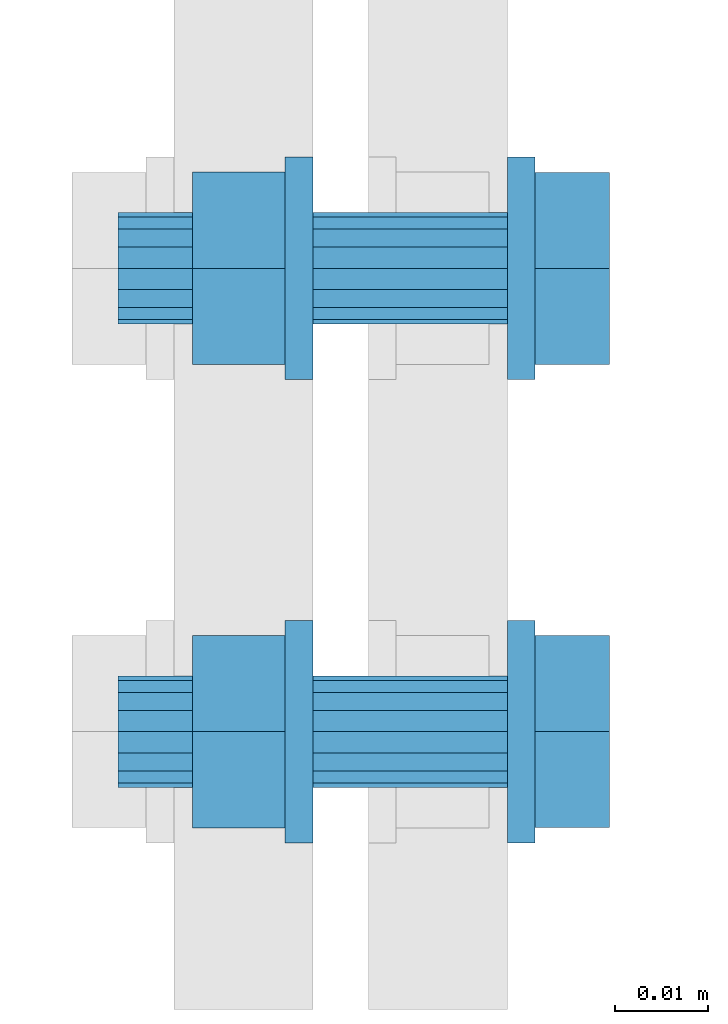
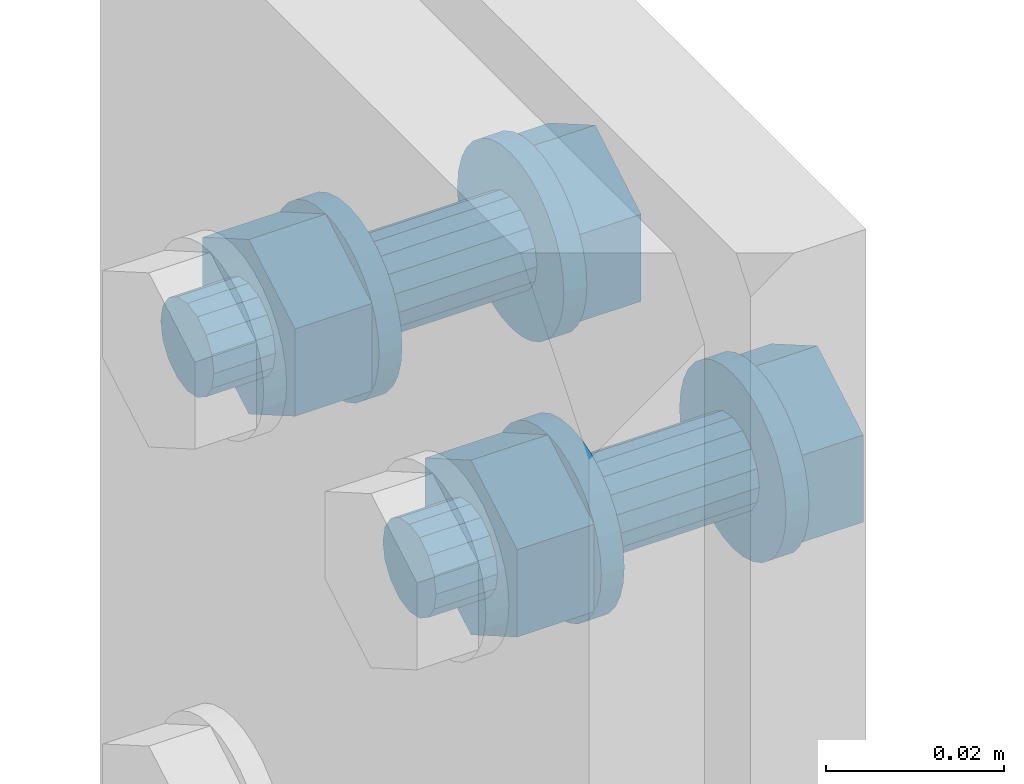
# One storey, part 10 of 13: 2 mechanical fasteners.
"""IFC4X3_ADD2 building model written with IfcOpenShell, lengths in millimetres."""

from ifc_helpers import new_model, entity, si_unit, converted_unit, derived_unit, direction, origin, place, context, project, spatial, faceted_brep, element, save


model = new_model("IFC4X3_ADD2")

# Units and contexts
model_context = context("Model", 3, precision=0.01, world=origin(), true_north=direction((6.123233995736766e-17, 1.0)))
plan_context = context("Plan", 3, precision=0.01, world=origin(), true_north=direction((6.123233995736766e-17, 1.0)))
ifc_project = project(units=[si_unit("LENGTHUNIT", "METRE", prefix="MILLI"), converted_unit("PLANEANGLEUNIT", "DEGREE", entity("IfcPlaneAngleMeasure", 0.017453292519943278), si_unit("PLANEANGLEUNIT", "RADIAN"), dimensions=[0, 0, 0, 0, 0, 0, 0]), si_unit("AREAUNIT", "SQUARE_METRE"), si_unit("VOLUMEUNIT", "CUBIC_METRE"), derived_unit("THERMALTRANSMITTANCEUNIT", [(si_unit("MASSUNIT", "GRAM", prefix="KILO"), 1), (si_unit("THERMODYNAMICTEMPERATUREUNIT", "KELVIN"), -1), (si_unit("TIMEUNIT", "SECOND"), -3)]), derived_unit("USERDEFINED", [(si_unit("MASSUNIT", "GRAM", prefix="KILO"), 1), (si_unit("THERMODYNAMICTEMPERATUREUNIT", "KELVIN"), -1), (si_unit("TIMEUNIT", "SECOND"), -2)]), derived_unit("THERMALRESISTANCEUNIT", [(si_unit("MASSUNIT", "GRAM", prefix="KILO"), -1), (si_unit("TIMEUNIT", "SECOND"), 3), (si_unit("THERMODYNAMICTEMPERATUREUNIT", "KELVIN"), 1)]), si_unit("MASSUNIT", "GRAM", prefix="KILO"), derived_unit("MOMENTOFINERTIAUNIT", [(si_unit("LENGTHUNIT", "METRE"), 4)]), derived_unit("LINEARFORCEUNIT", [(si_unit("MASSUNIT", "GRAM", prefix="KILO"), 1), (si_unit("TIMEUNIT", "SECOND"), -2)]), derived_unit("WARPINGCONSTANTUNIT", [(si_unit("LENGTHUNIT", "METRE"), 6)]), si_unit("PRESSUREUNIT", "PASCAL"), derived_unit("MASSDENSITYUNIT", [(si_unit("MASSUNIT", "GRAM", prefix="KILO"), 1), (si_unit("LENGTHUNIT", "METRE"), -3)]), derived_unit("MODULUSOFELASTICITYUNIT", [(si_unit("MASSUNIT", "GRAM", prefix="KILO"), 1), (si_unit("TIMEUNIT", "SECOND"), -2), (si_unit("LENGTHUNIT", "METRE"), -1)]), derived_unit("THERMALEXPANSIONCOEFFICIENTUNIT", [(si_unit("THERMODYNAMICTEMPERATUREUNIT", "KELVIN"), -1)]), derived_unit("VAPORPERMEABILITYUNIT", [(si_unit("LENGTHUNIT", "METRE"), -1), (si_unit("TIMEUNIT", "SECOND"), 1)]), derived_unit("USERDEFINED", [(si_unit("MASSUNIT", "GRAM", prefix="KILO"), 1), (si_unit("TIMEUNIT", "SECOND"), -3), (si_unit("LENGTHUNIT", "METRE"), 3), (si_unit("ELECTRICCURRENTUNIT", "AMPERE"), -2)]), derived_unit("SPECIFICHEATCAPACITYUNIT", [(si_unit("THERMODYNAMICTEMPERATUREUNIT", "KELVIN"), -1), (si_unit("TIMEUNIT", "SECOND"), -2), (si_unit("LENGTHUNIT", "METRE"), 2)]), derived_unit("THERMALCONDUCTANCEUNIT", [(si_unit("MASSUNIT", "GRAM", prefix="KILO"), 1), (si_unit("THERMODYNAMICTEMPERATUREUNIT", "KELVIN"), -1), (si_unit("TIMEUNIT", "SECOND"), -3), (si_unit("LENGTHUNIT", "METRE"), 1)])], contexts=[model_context, plan_context])

# Site, building, storey
site_placement = place(None, origin())
site = spatial("IfcSite", under=ifc_project, at=site_placement, Name="Default", CompositionType="ELEMENT")
building_placement = place(site_placement, origin())
building = spatial("IfcBuilding", under=site, at=building_placement, Name="Complex structure", CompositionType="ELEMENT")
storey_placement = place(building_placement, origin())
storey = spatial("IfcBuildingStorey", under=building, at=storey_placement, Name="Level 00", CompositionType="ELEMENT", Elevation=0.0)

# Mechanical fasteners
mechanical_fastener_1_placement = place(storey_placement, origin())
element("IfcMechanicalFastener", 1, at=mechanical_fastener_1_placement, inside=storey, ObjectType="Bolt#1", NominalDiameter=12.0, NominalLength=45.0, context=model_context, shape_type="Brep", body=[
    faceted_brep([(-5124.221550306, -1269.866703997, 2965.0), (-5127.221550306, -1269.866703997, 2965.0), (-5127.221550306, -1269.636127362, 2962.658916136), (-5124.221550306, -1269.636127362, 2962.658916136), (-5127.221550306, -1268.953258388, 2960.407798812), (-5124.221550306, -1268.953258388, 2960.407798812), (-5127.221550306, -1267.844339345, 2958.333157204), (-5124.221550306, -1267.844339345, 2958.333157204), (-5127.221550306, -1266.351985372, 2956.514718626), (-5124.221550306, -1266.351985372, 2956.514718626), (-5127.221550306, -1264.533546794, 2955.022364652), (-5124.221550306, -1264.533546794, 2955.022364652), (-5127.221550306, -1262.458905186, 2953.91344561), (-5124.221550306, -1262.458905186, 2953.91344561), (-5127.221550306, -1260.207787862, 2953.230576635), (-5124.221550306, -1260.207787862, 2953.230576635), (-5127.221550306, -1257.866703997, 2953.0), (-5124.221550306, -1257.866703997, 2953.0), (-5127.221550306, -1255.525620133, 2953.230576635), (-5124.221550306, -1255.525620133, 2953.230576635), (-5127.221550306, -1253.274502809, 2953.91344561), (-5124.221550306, -1253.274502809, 2953.91344561), (-5127.221550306, -1251.199861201, 2955.022364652), (-5124.221550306, -1251.199861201, 2955.022364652), (-5127.221550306, -1249.381422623, 2956.514718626), (-5124.221550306, -1249.381422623, 2956.514718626), (-5127.221550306, -1247.88906865, 2958.333157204), (-5124.221550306, -1247.88906865, 2958.333157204), (-5127.221550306, -1246.780149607, 2960.407798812), (-5124.221550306, -1246.780149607, 2960.407798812), (-5127.221550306, -1246.097280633, 2962.658916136), (-5124.221550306, -1246.097280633, 2962.658916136), (-5127.221550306, -1245.866703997, 2965.0), (-5124.221550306, -1245.866703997, 2965.0), (-5127.221550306, -1246.097280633, 2967.341083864), (-5124.221550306, -1246.097280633, 2967.341083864), (-5127.221550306, -1246.780149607, 2969.592201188), (-5124.221550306, -1246.780149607, 2969.592201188), (-5127.221550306, -1247.88906865, 2971.666842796), (-5124.221550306, -1247.88906865, 2971.666842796), (-5127.221550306, -1249.381422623, 2973.485281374), (-5124.221550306, -1249.381422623, 2973.485281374), (-5127.221550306, -1251.199861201, 2974.977635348), (-5124.221550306, -1251.199861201, 2974.977635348), (-5127.221550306, -1253.274502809, 2976.08655439), (-5124.221550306, -1253.274502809, 2976.08655439), (-5127.221550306, -1255.525620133, 2976.769423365), (-5124.221550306, -1255.525620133, 2976.769423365), (-5127.221550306, -1257.866703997, 2977.0), (-5124.221550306, -1257.866703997, 2977.0), (-5127.221550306, -1260.207787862, 2976.769423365), (-5124.221550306, -1260.207787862, 2976.769423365), (-5127.221550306, -1262.458905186, 2976.08655439), (-5124.221550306, -1262.458905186, 2976.08655439), (-5127.221550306, -1264.533546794, 2974.977635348), (-5124.221550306, -1264.533546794, 2974.977635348), (-5127.221550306, -1266.351985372, 2973.485281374), (-5124.221550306, -1266.351985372, 2973.485281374), (-5127.221550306, -1267.844339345, 2971.666842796), (-5124.221550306, -1267.844339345, 2971.666842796), (-5127.221550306, -1268.953258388, 2969.592201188), (-5124.221550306, -1268.953258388, 2969.592201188), (-5127.221550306, -1269.636127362, 2967.341083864), (-5124.221550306, -1269.636127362, 2967.341083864)], [[[0, 1, 2, 3]], [[3, 2, 4, 5]], [[5, 4, 6, 7]], [[7, 6, 8, 9]], [[9, 8, 10, 11]], [[11, 10, 12, 13]], [[13, 12, 14, 15]], [[15, 14, 16, 17]], [[17, 16, 18, 19]], [[19, 18, 20, 21]], [[21, 20, 22, 23]], [[23, 22, 24, 25]], [[25, 24, 26, 27]], [[27, 26, 28, 29]], [[29, 28, 30, 31]], [[31, 30, 32, 33]], [[33, 32, 34, 35]], [[35, 34, 36, 37]], [[37, 36, 38, 39]], [[39, 38, 40, 41]], [[41, 40, 42, 43]], [[43, 42, 44, 45]], [[45, 44, 46, 47]], [[47, 46, 48, 49]], [[49, 48, 50, 51]], [[51, 50, 52, 53]], [[53, 52, 54, 55]], [[55, 54, 56, 57]], [[57, 56, 58, 59]], [[59, 58, 60, 61]], [[61, 60, 62, 63]], [[63, 62, 1, 0]], [[0, 3, 5, 7, 9, 11, 13, 15, 17, 19, 21, 23, 25, 27, 29, 31, 33, 35, 37, 39, 41, 43, 45, 47, 49, 51, 53, 55, 57, 59, 61, 63]], [[1, 62, 60, 58, 56, 54, 52, 50, 48, 46, 44, 42, 40, 38, 36, 34, 32, 30, 28, 26, 24, 22, 20, 18, 16, 14, 12, 10, 8, 6, 4, 2]]]),
    faceted_brep([(-5124.221550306, -1247.513370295, 2959.0225), (-5116.221550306, -1247.513370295, 2959.0225), (-5116.221550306, -1257.866703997, 2953.045), (-5124.221550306, -1257.866703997, 2953.045), (-5116.221550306, -1268.2200377, 2959.0225), (-5124.221550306, -1268.2200377, 2959.0225), (-5116.221550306, -1268.2200377, 2970.9775), (-5124.221550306, -1268.2200377, 2970.9775), (-5116.221550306, -1257.866703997, 2976.955), (-5124.221550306, -1257.866703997, 2976.955), (-5116.221550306, -1247.513370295, 2970.9775), (-5124.221550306, -1247.513370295, 2970.9775)], [[[0, 1, 2, 3]], [[3, 2, 4, 5]], [[5, 4, 6, 7]], [[7, 6, 8, 9]], [[9, 8, 10, 11]], [[11, 10, 1, 0]], [[4, 2, 1, 10, 8, 6]], [[0, 3, 5, 7, 9, 11]]]),
    faceted_brep([(-5127.221550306, -1263.866703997, 2965.0), (-5148.221550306, -1263.866703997, 2965.0), (-5148.221550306, -1263.409981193, 2962.703899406), (-5127.221550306, -1263.409981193, 2962.703899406), (-5148.221550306, -1262.109344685, 2960.757359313), (-5127.221550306, -1262.109344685, 2960.757359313), (-5148.221550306, -1260.162804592, 2959.456722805), (-5127.221550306, -1260.162804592, 2959.456722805), (-5148.221550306, -1257.866703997, 2959.0), (-5127.221550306, -1257.866703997, 2959.0), (-5148.221550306, -1255.570603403, 2959.456722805), (-5127.221550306, -1255.570603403, 2959.456722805), (-5148.221550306, -1253.62406331, 2960.757359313), (-5127.221550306, -1253.62406331, 2960.757359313), (-5148.221550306, -1252.323426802, 2962.703899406), (-5127.221550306, -1252.323426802, 2962.703899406), (-5148.221550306, -1251.866703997, 2965.0), (-5127.221550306, -1251.866703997, 2965.0), (-5148.221550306, -1252.323426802, 2967.296100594), (-5127.221550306, -1252.323426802, 2967.296100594), (-5148.221550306, -1253.62406331, 2969.242640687), (-5127.221550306, -1253.62406331, 2969.242640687), (-5148.221550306, -1255.570603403, 2970.543277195), (-5127.221550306, -1255.570603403, 2970.543277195), (-5148.221550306, -1257.866703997, 2971.0), (-5127.221550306, -1257.866703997, 2971.0), (-5148.221550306, -1260.162804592, 2970.543277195), (-5127.221550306, -1260.162804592, 2970.543277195), (-5148.221550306, -1262.109344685, 2969.242640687), (-5127.221550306, -1262.109344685, 2969.242640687), (-5148.221550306, -1263.409981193, 2967.296100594), (-5127.221550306, -1263.409981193, 2967.296100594)], [[[0, 1, 2, 3]], [[3, 2, 4, 5]], [[5, 4, 6, 7]], [[7, 6, 8, 9]], [[9, 8, 10, 11]], [[11, 10, 12, 13]], [[13, 12, 14, 15]], [[15, 14, 16, 17]], [[17, 16, 18, 19]], [[19, 18, 20, 21]], [[21, 20, 22, 23]], [[23, 22, 24, 25]], [[25, 24, 26, 27]], [[27, 26, 28, 29]], [[29, 28, 30, 31]], [[31, 30, 1, 0]], [[0, 3, 5, 7, 9, 11, 13, 15, 17, 19, 21, 23, 25, 27, 29, 31]], [[1, 30, 28, 26, 24, 22, 20, 18, 16, 14, 12, 10, 8, 6, 4, 2]]]),
    faceted_brep([(-5148.221550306, -1269.866703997, 2965.0), (-5151.221550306, -1269.866703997, 2965.0), (-5151.221550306, -1269.636127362, 2962.658916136), (-5148.221550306, -1269.636127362, 2962.658916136), (-5151.221550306, -1268.953258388, 2960.407798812), (-5148.221550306, -1268.953258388, 2960.407798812), (-5151.221550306, -1267.844339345, 2958.333157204), (-5148.221550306, -1267.844339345, 2958.333157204), (-5151.221550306, -1266.351985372, 2956.514718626), (-5148.221550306, -1266.351985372, 2956.514718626), (-5151.221550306, -1264.533546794, 2955.022364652), (-5148.221550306, -1264.533546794, 2955.022364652), (-5151.221550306, -1262.458905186, 2953.91344561), (-5148.221550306, -1262.458905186, 2953.91344561), (-5151.221550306, -1260.207787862, 2953.230576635), (-5148.221550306, -1260.207787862, 2953.230576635), (-5151.221550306, -1257.866703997, 2953.0), (-5148.221550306, -1257.866703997, 2953.0), (-5151.221550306, -1255.525620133, 2953.230576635), (-5148.221550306, -1255.525620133, 2953.230576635), (-5151.221550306, -1253.274502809, 2953.91344561), (-5148.221550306, -1253.274502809, 2953.91344561), (-5151.221550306, -1251.199861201, 2955.022364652), (-5148.221550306, -1251.199861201, 2955.022364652), (-5151.221550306, -1249.381422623, 2956.514718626), (-5148.221550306, -1249.381422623, 2956.514718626), (-5151.221550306, -1247.88906865, 2958.333157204), (-5148.221550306, -1247.88906865, 2958.333157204), (-5151.221550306, -1246.780149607, 2960.407798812), (-5148.221550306, -1246.780149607, 2960.407798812), (-5151.221550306, -1246.097280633, 2962.658916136), (-5148.221550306, -1246.097280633, 2962.658916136), (-5151.221550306, -1245.866703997, 2965.0), (-5148.221550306, -1245.866703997, 2965.0), (-5151.221550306, -1246.097280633, 2967.341083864), (-5148.221550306, -1246.097280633, 2967.341083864), (-5151.221550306, -1246.780149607, 2969.592201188), (-5148.221550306, -1246.780149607, 2969.592201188), (-5151.221550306, -1247.88906865, 2971.666842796), (-5148.221550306, -1247.88906865, 2971.666842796), (-5151.221550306, -1249.381422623, 2973.485281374), (-5148.221550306, -1249.381422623, 2973.485281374), (-5151.221550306, -1251.199861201, 2974.977635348), (-5148.221550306, -1251.199861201, 2974.977635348), (-5151.221550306, -1253.274502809, 2976.08655439), (-5148.221550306, -1253.274502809, 2976.08655439), (-5151.221550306, -1255.525620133, 2976.769423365), (-5148.221550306, -1255.525620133, 2976.769423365), (-5151.221550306, -1257.866703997, 2977.0), (-5148.221550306, -1257.866703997, 2977.0), (-5151.221550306, -1260.207787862, 2976.769423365), (-5148.221550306, -1260.207787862, 2976.769423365), (-5151.221550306, -1262.458905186, 2976.08655439), (-5148.221550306, -1262.458905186, 2976.08655439), (-5151.221550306, -1264.533546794, 2974.977635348), (-5148.221550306, -1264.533546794, 2974.977635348), (-5151.221550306, -1266.351985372, 2973.485281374), (-5148.221550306, -1266.351985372, 2973.485281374), (-5151.221550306, -1267.844339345, 2971.666842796), (-5148.221550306, -1267.844339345, 2971.666842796), (-5151.221550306, -1268.953258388, 2969.592201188), (-5148.221550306, -1268.953258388, 2969.592201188), (-5151.221550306, -1269.636127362, 2967.341083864), (-5148.221550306, -1269.636127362, 2967.341083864)], [[[0, 1, 2, 3]], [[3, 2, 4, 5]], [[5, 4, 6, 7]], [[7, 6, 8, 9]], [[9, 8, 10, 11]], [[11, 10, 12, 13]], [[13, 12, 14, 15]], [[15, 14, 16, 17]], [[17, 16, 18, 19]], [[19, 18, 20, 21]], [[21, 20, 22, 23]], [[23, 22, 24, 25]], [[25, 24, 26, 27]], [[27, 26, 28, 29]], [[29, 28, 30, 31]], [[31, 30, 32, 33]], [[33, 32, 34, 35]], [[35, 34, 36, 37]], [[37, 36, 38, 39]], [[39, 38, 40, 41]], [[41, 40, 42, 43]], [[43, 42, 44, 45]], [[45, 44, 46, 47]], [[47, 46, 48, 49]], [[49, 48, 50, 51]], [[51, 50, 52, 53]], [[53, 52, 54, 55]], [[55, 54, 56, 57]], [[57, 56, 58, 59]], [[59, 58, 60, 61]], [[61, 60, 62, 63]], [[63, 62, 1, 0]], [[0, 3, 5, 7, 9, 11, 13, 15, 17, 19, 21, 23, 25, 27, 29, 31, 33, 35, 37, 39, 41, 43, 45, 47, 49, 51, 53, 55, 57, 59, 61, 63]], [[1, 62, 60, 58, 56, 54, 52, 50, 48, 46, 44, 42, 40, 38, 36, 34, 32, 30, 28, 26, 24, 22, 20, 18, 16, 14, 12, 10, 8, 6, 4, 2]]]),
    faceted_brep([(-5161.221550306, -1247.474399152, 2959.0), (-5151.221550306, -1247.474399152, 2959.0), (-5151.221550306, -1257.866703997, 2953.0), (-5161.221550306, -1257.866703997, 2953.0), (-5151.221550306, -1268.259008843, 2959.0), (-5161.221550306, -1268.259008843, 2959.0), (-5151.221550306, -1268.259008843, 2971.0), (-5161.221550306, -1268.259008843, 2971.0), (-5151.221550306, -1257.866703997, 2977.0), (-5161.221550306, -1257.866703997, 2977.0), (-5151.221550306, -1247.474399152, 2971.0), (-5161.221550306, -1247.474399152, 2971.0)], [[[0, 1, 2, 3]], [[3, 2, 4, 5]], [[5, 4, 6, 7]], [[7, 6, 8, 9]], [[9, 8, 10, 11]], [[11, 10, 1, 0]], [[4, 2, 1, 10, 8, 6]], [[0, 3, 5, 7, 9, 11]]]),
    faceted_brep([(-5161.221550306, -1263.866703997, 2965.0), (-5169.221550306, -1263.866703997, 2965.0), (-5169.221550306, -1263.409981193, 2962.703899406), (-5161.221550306, -1263.409981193, 2962.703899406), (-5169.221550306, -1262.109344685, 2960.757359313), (-5161.221550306, -1262.109344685, 2960.757359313), (-5169.221550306, -1260.162804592, 2959.456722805), (-5161.221550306, -1260.162804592, 2959.456722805), (-5169.221550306, -1257.866703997, 2959.0), (-5161.221550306, -1257.866703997, 2959.0), (-5169.221550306, -1255.570603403, 2959.456722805), (-5161.221550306, -1255.570603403, 2959.456722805), (-5169.221550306, -1253.62406331, 2960.757359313), (-5161.221550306, -1253.62406331, 2960.757359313), (-5169.221550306, -1252.323426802, 2962.703899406), (-5161.221550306, -1252.323426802, 2962.703899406), (-5169.221550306, -1251.866703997, 2965.0), (-5161.221550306, -1251.866703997, 2965.0), (-5169.221550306, -1252.323426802, 2967.296100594), (-5161.221550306, -1252.323426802, 2967.296100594), (-5169.221550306, -1253.62406331, 2969.242640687), (-5161.221550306, -1253.62406331, 2969.242640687), (-5169.221550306, -1255.570603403, 2970.543277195), (-5161.221550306, -1255.570603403, 2970.543277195), (-5169.221550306, -1257.866703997, 2971.0), (-5161.221550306, -1257.866703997, 2971.0), (-5169.221550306, -1260.162804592, 2970.543277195), (-5161.221550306, -1260.162804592, 2970.543277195), (-5169.221550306, -1262.109344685, 2969.242640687), (-5161.221550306, -1262.109344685, 2969.242640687), (-5169.221550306, -1263.409981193, 2967.296100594), (-5161.221550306, -1263.409981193, 2967.296100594)], [[[0, 1, 2, 3]], [[3, 2, 4, 5]], [[5, 4, 6, 7]], [[7, 6, 8, 9]], [[9, 8, 10, 11]], [[11, 10, 12, 13]], [[13, 12, 14, 15]], [[15, 14, 16, 17]], [[17, 16, 18, 19]], [[19, 18, 20, 21]], [[21, 20, 22, 23]], [[23, 22, 24, 25]], [[25, 24, 26, 27]], [[27, 26, 28, 29]], [[29, 28, 30, 31]], [[31, 30, 1, 0]], [[0, 3, 5, 7, 9, 11, 13, 15, 17, 19, 21, 23, 25, 27, 29, 31]], [[1, 30, 28, 26, 24, 22, 20, 18, 16, 14, 12, 10, 8, 6, 4, 2]]]),
])
mechanical_fastener_2_placement = place(storey_placement, origin())
element("IfcMechanicalFastener", 2, at=mechanical_fastener_2_placement, inside=storey, ObjectType="Bolt#2", NominalDiameter=12.0, NominalLength=45.0, context=model_context, shape_type="Brep", body=[
    faceted_brep([(-5124.221550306, -1295.866703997, 2965.0), (-5127.221550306, -1295.866703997, 2965.0), (-5127.221550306, -1296.097280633, 2967.341083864), (-5124.221550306, -1296.097280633, 2967.341083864), (-5127.221550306, -1296.780149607, 2969.592201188), (-5124.221550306, -1296.780149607, 2969.592201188), (-5127.221550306, -1297.88906865, 2971.666842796), (-5124.221550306, -1297.88906865, 2971.666842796), (-5127.221550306, -1299.381422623, 2973.485281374), (-5124.221550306, -1299.381422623, 2973.485281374), (-5127.221550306, -1301.199861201, 2974.977635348), (-5124.221550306, -1301.199861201, 2974.977635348), (-5127.221550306, -1303.274502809, 2976.08655439), (-5124.221550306, -1303.274502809, 2976.08655439), (-5127.221550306, -1305.525620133, 2976.769423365), (-5124.221550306, -1305.525620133, 2976.769423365), (-5127.221550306, -1307.866703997, 2977.0), (-5124.221550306, -1307.866703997, 2977.0), (-5127.221550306, -1310.207787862, 2976.769423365), (-5124.221550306, -1310.207787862, 2976.769423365), (-5127.221550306, -1312.458905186, 2976.08655439), (-5124.221550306, -1312.458905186, 2976.08655439), (-5127.221550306, -1314.533546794, 2974.977635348), (-5124.221550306, -1314.533546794, 2974.977635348), (-5127.221550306, -1316.351985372, 2973.485281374), (-5124.221550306, -1316.351985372, 2973.485281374), (-5127.221550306, -1317.844339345, 2971.666842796), (-5124.221550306, -1317.844339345, 2971.666842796), (-5127.221550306, -1318.953258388, 2969.592201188), (-5124.221550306, -1318.953258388, 2969.592201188), (-5127.221550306, -1319.636127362, 2967.341083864), (-5124.221550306, -1319.636127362, 2967.341083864), (-5127.221550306, -1319.866703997, 2965.0), (-5124.221550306, -1319.866703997, 2965.0), (-5127.221550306, -1319.636127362, 2962.658916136), (-5124.221550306, -1319.636127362, 2962.658916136), (-5127.221550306, -1318.953258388, 2960.407798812), (-5124.221550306, -1318.953258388, 2960.407798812), (-5127.221550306, -1317.844339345, 2958.333157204), (-5124.221550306, -1317.844339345, 2958.333157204), (-5127.221550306, -1316.351985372, 2956.514718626), (-5124.221550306, -1316.351985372, 2956.514718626), (-5127.221550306, -1314.533546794, 2955.022364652), (-5124.221550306, -1314.533546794, 2955.022364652), (-5127.221550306, -1312.458905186, 2953.91344561), (-5124.221550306, -1312.458905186, 2953.91344561), (-5127.221550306, -1310.207787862, 2953.230576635), (-5124.221550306, -1310.207787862, 2953.230576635), (-5127.221550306, -1307.866703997, 2953.0), (-5124.221550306, -1307.866703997, 2953.0), (-5127.221550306, -1305.525620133, 2953.230576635), (-5124.221550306, -1305.525620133, 2953.230576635), (-5127.221550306, -1303.274502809, 2953.91344561), (-5124.221550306, -1303.274502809, 2953.91344561), (-5127.221550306, -1301.199861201, 2955.022364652), (-5124.221550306, -1301.199861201, 2955.022364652), (-5127.221550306, -1299.381422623, 2956.514718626), (-5124.221550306, -1299.381422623, 2956.514718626), (-5127.221550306, -1297.88906865, 2958.333157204), (-5124.221550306, -1297.88906865, 2958.333157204), (-5127.221550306, -1296.780149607, 2960.407798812), (-5124.221550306, -1296.780149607, 2960.407798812), (-5127.221550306, -1296.097280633, 2962.658916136), (-5124.221550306, -1296.097280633, 2962.658916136)], [[[0, 1, 2, 3]], [[3, 2, 4, 5]], [[5, 4, 6, 7]], [[7, 6, 8, 9]], [[9, 8, 10, 11]], [[11, 10, 12, 13]], [[13, 12, 14, 15]], [[15, 14, 16, 17]], [[17, 16, 18, 19]], [[19, 18, 20, 21]], [[21, 20, 22, 23]], [[23, 22, 24, 25]], [[25, 24, 26, 27]], [[27, 26, 28, 29]], [[29, 28, 30, 31]], [[31, 30, 32, 33]], [[33, 32, 34, 35]], [[35, 34, 36, 37]], [[37, 36, 38, 39]], [[39, 38, 40, 41]], [[41, 40, 42, 43]], [[43, 42, 44, 45]], [[45, 44, 46, 47]], [[47, 46, 48, 49]], [[49, 48, 50, 51]], [[51, 50, 52, 53]], [[53, 52, 54, 55]], [[55, 54, 56, 57]], [[57, 56, 58, 59]], [[59, 58, 60, 61]], [[61, 60, 62, 63]], [[63, 62, 1, 0]], [[0, 3, 5, 7, 9, 11, 13, 15, 17, 19, 21, 23, 25, 27, 29, 31, 33, 35, 37, 39, 41, 43, 45, 47, 49, 51, 53, 55, 57, 59, 61, 63]], [[1, 62, 60, 58, 56, 54, 52, 50, 48, 46, 44, 42, 40, 38, 36, 34, 32, 30, 28, 26, 24, 22, 20, 18, 16, 14, 12, 10, 8, 6, 4, 2]]]),
    faceted_brep([(-5124.221550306, -1318.2200377, 2970.9775), (-5116.221550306, -1318.2200377, 2970.9775), (-5116.221550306, -1307.866703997, 2976.955), (-5124.221550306, -1307.866703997, 2976.955), (-5116.221550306, -1297.513370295, 2970.9775), (-5124.221550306, -1297.513370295, 2970.9775), (-5116.221550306, -1297.513370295, 2959.0225), (-5124.221550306, -1297.513370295, 2959.0225), (-5116.221550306, -1307.866703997, 2953.045), (-5124.221550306, -1307.866703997, 2953.045), (-5116.221550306, -1318.2200377, 2959.0225), (-5124.221550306, -1318.2200377, 2959.0225)], [[[0, 1, 2, 3]], [[3, 2, 4, 5]], [[5, 4, 6, 7]], [[7, 6, 8, 9]], [[9, 8, 10, 11]], [[11, 10, 1, 0]], [[4, 2, 1, 10, 8, 6]], [[0, 3, 5, 7, 9, 11]]]),
    faceted_brep([(-5127.221550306, -1301.866703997, 2965.0), (-5148.221550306, -1301.866703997, 2965.0), (-5148.221550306, -1302.323426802, 2967.296100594), (-5127.221550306, -1302.323426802, 2967.296100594), (-5148.221550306, -1303.62406331, 2969.242640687), (-5127.221550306, -1303.62406331, 2969.242640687), (-5148.221550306, -1305.570603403, 2970.543277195), (-5127.221550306, -1305.570603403, 2970.543277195), (-5148.221550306, -1307.866703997, 2971.0), (-5127.221550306, -1307.866703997, 2971.0), (-5148.221550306, -1310.162804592, 2970.543277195), (-5127.221550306, -1310.162804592, 2970.543277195), (-5148.221550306, -1312.109344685, 2969.242640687), (-5127.221550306, -1312.109344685, 2969.242640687), (-5148.221550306, -1313.409981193, 2967.296100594), (-5127.221550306, -1313.409981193, 2967.296100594), (-5148.221550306, -1313.866703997, 2965.0), (-5127.221550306, -1313.866703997, 2965.0), (-5148.221550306, -1313.409981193, 2962.703899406), (-5127.221550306, -1313.409981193, 2962.703899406), (-5148.221550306, -1312.109344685, 2960.757359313), (-5127.221550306, -1312.109344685, 2960.757359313), (-5148.221550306, -1310.162804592, 2959.456722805), (-5127.221550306, -1310.162804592, 2959.456722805), (-5148.221550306, -1307.866703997, 2959.0), (-5127.221550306, -1307.866703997, 2959.0), (-5148.221550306, -1305.570603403, 2959.456722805), (-5127.221550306, -1305.570603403, 2959.456722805), (-5148.221550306, -1303.62406331, 2960.757359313), (-5127.221550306, -1303.62406331, 2960.757359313), (-5148.221550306, -1302.323426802, 2962.703899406), (-5127.221550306, -1302.323426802, 2962.703899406)], [[[0, 1, 2, 3]], [[3, 2, 4, 5]], [[5, 4, 6, 7]], [[7, 6, 8, 9]], [[9, 8, 10, 11]], [[11, 10, 12, 13]], [[13, 12, 14, 15]], [[15, 14, 16, 17]], [[17, 16, 18, 19]], [[19, 18, 20, 21]], [[21, 20, 22, 23]], [[23, 22, 24, 25]], [[25, 24, 26, 27]], [[27, 26, 28, 29]], [[29, 28, 30, 31]], [[31, 30, 1, 0]], [[0, 3, 5, 7, 9, 11, 13, 15, 17, 19, 21, 23, 25, 27, 29, 31]], [[1, 30, 28, 26, 24, 22, 20, 18, 16, 14, 12, 10, 8, 6, 4, 2]]]),
    faceted_brep([(-5148.221550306, -1295.866703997, 2965.0), (-5151.221550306, -1295.866703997, 2965.0), (-5151.221550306, -1296.097280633, 2967.341083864), (-5148.221550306, -1296.097280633, 2967.341083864), (-5151.221550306, -1296.780149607, 2969.592201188), (-5148.221550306, -1296.780149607, 2969.592201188), (-5151.221550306, -1297.88906865, 2971.666842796), (-5148.221550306, -1297.88906865, 2971.666842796), (-5151.221550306, -1299.381422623, 2973.485281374), (-5148.221550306, -1299.381422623, 2973.485281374), (-5151.221550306, -1301.199861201, 2974.977635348), (-5148.221550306, -1301.199861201, 2974.977635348), (-5151.221550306, -1303.274502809, 2976.08655439), (-5148.221550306, -1303.274502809, 2976.08655439), (-5151.221550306, -1305.525620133, 2976.769423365), (-5148.221550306, -1305.525620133, 2976.769423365), (-5151.221550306, -1307.866703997, 2977.0), (-5148.221550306, -1307.866703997, 2977.0), (-5151.221550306, -1310.207787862, 2976.769423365), (-5148.221550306, -1310.207787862, 2976.769423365), (-5151.221550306, -1312.458905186, 2976.08655439), (-5148.221550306, -1312.458905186, 2976.08655439), (-5151.221550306, -1314.533546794, 2974.977635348), (-5148.221550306, -1314.533546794, 2974.977635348), (-5151.221550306, -1316.351985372, 2973.485281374), (-5148.221550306, -1316.351985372, 2973.485281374), (-5151.221550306, -1317.844339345, 2971.666842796), (-5148.221550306, -1317.844339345, 2971.666842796), (-5151.221550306, -1318.953258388, 2969.592201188), (-5148.221550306, -1318.953258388, 2969.592201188), (-5151.221550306, -1319.636127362, 2967.341083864), (-5148.221550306, -1319.636127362, 2967.341083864), (-5151.221550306, -1319.866703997, 2965.0), (-5148.221550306, -1319.866703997, 2965.0), (-5151.221550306, -1319.636127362, 2962.658916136), (-5148.221550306, -1319.636127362, 2962.658916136), (-5151.221550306, -1318.953258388, 2960.407798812), (-5148.221550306, -1318.953258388, 2960.407798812), (-5151.221550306, -1317.844339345, 2958.333157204), (-5148.221550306, -1317.844339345, 2958.333157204), (-5151.221550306, -1316.351985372, 2956.514718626), (-5148.221550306, -1316.351985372, 2956.514718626), (-5151.221550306, -1314.533546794, 2955.022364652), (-5148.221550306, -1314.533546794, 2955.022364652), (-5151.221550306, -1312.458905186, 2953.91344561), (-5148.221550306, -1312.458905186, 2953.91344561), (-5151.221550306, -1310.207787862, 2953.230576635), (-5148.221550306, -1310.207787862, 2953.230576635), (-5151.221550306, -1307.866703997, 2953.0), (-5148.221550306, -1307.866703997, 2953.0), (-5151.221550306, -1305.525620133, 2953.230576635), (-5148.221550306, -1305.525620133, 2953.230576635), (-5151.221550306, -1303.274502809, 2953.91344561), (-5148.221550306, -1303.274502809, 2953.91344561), (-5151.221550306, -1301.199861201, 2955.022364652), (-5148.221550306, -1301.199861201, 2955.022364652), (-5151.221550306, -1299.381422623, 2956.514718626), (-5148.221550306, -1299.381422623, 2956.514718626), (-5151.221550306, -1297.88906865, 2958.333157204), (-5148.221550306, -1297.88906865, 2958.333157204), (-5151.221550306, -1296.780149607, 2960.407798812), (-5148.221550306, -1296.780149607, 2960.407798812), (-5151.221550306, -1296.097280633, 2962.658916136), (-5148.221550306, -1296.097280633, 2962.658916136)], [[[0, 1, 2, 3]], [[3, 2, 4, 5]], [[5, 4, 6, 7]], [[7, 6, 8, 9]], [[9, 8, 10, 11]], [[11, 10, 12, 13]], [[13, 12, 14, 15]], [[15, 14, 16, 17]], [[17, 16, 18, 19]], [[19, 18, 20, 21]], [[21, 20, 22, 23]], [[23, 22, 24, 25]], [[25, 24, 26, 27]], [[27, 26, 28, 29]], [[29, 28, 30, 31]], [[31, 30, 32, 33]], [[33, 32, 34, 35]], [[35, 34, 36, 37]], [[37, 36, 38, 39]], [[39, 38, 40, 41]], [[41, 40, 42, 43]], [[43, 42, 44, 45]], [[45, 44, 46, 47]], [[47, 46, 48, 49]], [[49, 48, 50, 51]], [[51, 50, 52, 53]], [[53, 52, 54, 55]], [[55, 54, 56, 57]], [[57, 56, 58, 59]], [[59, 58, 60, 61]], [[61, 60, 62, 63]], [[63, 62, 1, 0]], [[0, 3, 5, 7, 9, 11, 13, 15, 17, 19, 21, 23, 25, 27, 29, 31, 33, 35, 37, 39, 41, 43, 45, 47, 49, 51, 53, 55, 57, 59, 61, 63]], [[1, 62, 60, 58, 56, 54, 52, 50, 48, 46, 44, 42, 40, 38, 36, 34, 32, 30, 28, 26, 24, 22, 20, 18, 16, 14, 12, 10, 8, 6, 4, 2]]]),
    faceted_brep([(-5161.221550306, -1318.259008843, 2971.0), (-5151.221550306, -1318.259008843, 2971.0), (-5151.221550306, -1307.866703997, 2977.0), (-5161.221550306, -1307.866703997, 2977.0), (-5151.221550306, -1297.474399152, 2971.0), (-5161.221550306, -1297.474399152, 2971.0), (-5151.221550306, -1297.474399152, 2959.0), (-5161.221550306, -1297.474399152, 2959.0), (-5151.221550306, -1307.866703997, 2953.0), (-5161.221550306, -1307.866703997, 2953.0), (-5151.221550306, -1318.259008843, 2959.0), (-5161.221550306, -1318.259008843, 2959.0)], [[[0, 1, 2, 3]], [[3, 2, 4, 5]], [[5, 4, 6, 7]], [[7, 6, 8, 9]], [[9, 8, 10, 11]], [[11, 10, 1, 0]], [[4, 2, 1, 10, 8, 6]], [[0, 3, 5, 7, 9, 11]]]),
    faceted_brep([(-5161.221550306, -1301.866703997, 2965.0), (-5169.221550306, -1301.866703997, 2965.0), (-5169.221550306, -1302.323426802, 2967.296100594), (-5161.221550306, -1302.323426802, 2967.296100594), (-5169.221550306, -1303.62406331, 2969.242640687), (-5161.221550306, -1303.62406331, 2969.242640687), (-5169.221550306, -1305.570603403, 2970.543277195), (-5161.221550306, -1305.570603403, 2970.543277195), (-5169.221550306, -1307.866703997, 2971.0), (-5161.221550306, -1307.866703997, 2971.0), (-5169.221550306, -1310.162804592, 2970.543277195), (-5161.221550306, -1310.162804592, 2970.543277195), (-5169.221550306, -1312.109344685, 2969.242640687), (-5161.221550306, -1312.109344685, 2969.242640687), (-5169.221550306, -1313.409981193, 2967.296100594), (-5161.221550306, -1313.409981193, 2967.296100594), (-5169.221550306, -1313.866703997, 2965.0), (-5161.221550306, -1313.866703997, 2965.0), (-5169.221550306, -1313.409981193, 2962.703899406), (-5161.221550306, -1313.409981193, 2962.703899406), (-5169.221550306, -1312.109344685, 2960.757359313), (-5161.221550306, -1312.109344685, 2960.757359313), (-5169.221550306, -1310.162804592, 2959.456722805), (-5161.221550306, -1310.162804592, 2959.456722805), (-5169.221550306, -1307.866703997, 2959.0), (-5161.221550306, -1307.866703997, 2959.0), (-5169.221550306, -1305.570603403, 2959.456722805), (-5161.221550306, -1305.570603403, 2959.456722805), (-5169.221550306, -1303.62406331, 2960.757359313), (-5161.221550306, -1303.62406331, 2960.757359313), (-5169.221550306, -1302.323426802, 2962.703899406), (-5161.221550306, -1302.323426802, 2962.703899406)], [[[0, 1, 2, 3]], [[3, 2, 4, 5]], [[5, 4, 6, 7]], [[7, 6, 8, 9]], [[9, 8, 10, 11]], [[11, 10, 12, 13]], [[13, 12, 14, 15]], [[15, 14, 16, 17]], [[17, 16, 18, 19]], [[19, 18, 20, 21]], [[21, 20, 22, 23]], [[23, 22, 24, 25]], [[25, 24, 26, 27]], [[27, 26, 28, 29]], [[29, 28, 30, 31]], [[31, 30, 1, 0]], [[0, 3, 5, 7, 9, 11, 13, 15, 17, 19, 21, 23, 25, 27, 29, 31]], [[1, 30, 28, 26, 24, 22, 20, 18, 16, 14, 12, 10, 8, 6, 4, 2]]]),
])

save(model, "model.ifc")
